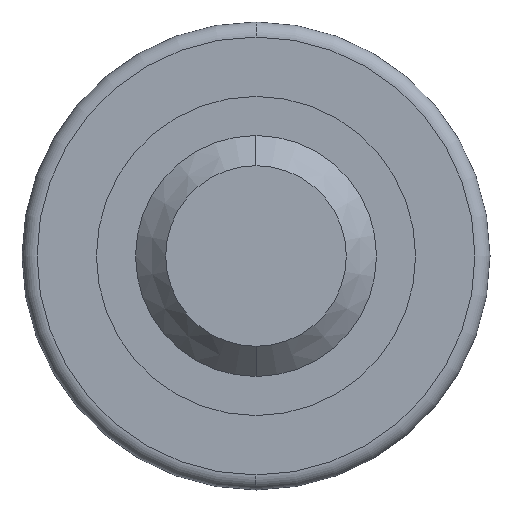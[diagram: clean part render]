
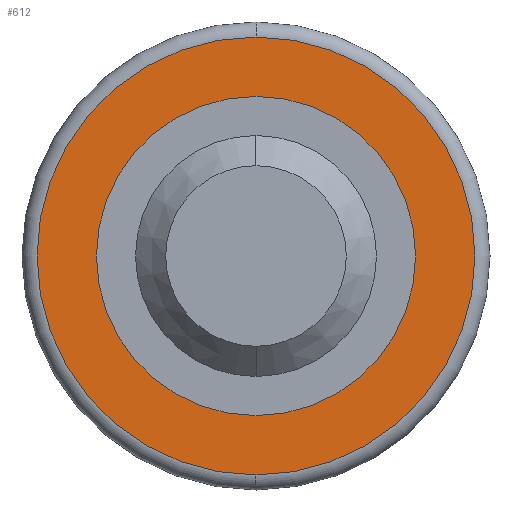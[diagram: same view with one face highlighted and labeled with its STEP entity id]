
A CAD part, left-side view. The second image highlights one B-rep face of the part: STEP entity #612.
In plain terms, the highlighted planar face has unit normal (-1, 0, 0).
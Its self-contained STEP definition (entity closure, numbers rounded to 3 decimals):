
#19 = DIRECTION ( 'NONE',  ( 0., 0., 1. ) ) ;
#45 = DIRECTION ( 'NONE',  ( 1., 0., 0. ) ) ;
#47 = AXIS2_PLACEMENT_3D ( 'NONE', #662, #349, #19 ) ;
#52 = EDGE_CURVE ( 'NONE', #122, #626, #214, .T. ) ;
#119 = DIRECTION ( 'NONE',  ( -1., 0., 0. ) ) ;
#122 = VERTEX_POINT ( 'NONE', #465 ) ;
#139 = EDGE_LOOP ( 'NONE', ( #383, #294 ) ) ;
#147 = CARTESIAN_POINT ( 'NONE',  ( 22., 0., 0. ) ) ;
#162 = CIRCLE ( 'NONE', #684, 26.5 ) ;
#198 = CARTESIAN_POINT ( 'NONE',  ( 22., 0., -26.5 ) ) ;
#202 = DIRECTION ( 'NONE',  ( 0., 0., -1. ) ) ;
#210 = AXIS2_PLACEMENT_3D ( 'NONE', #254, #119, #407 ) ;
#214 = CIRCLE ( 'NONE', #210, 36.35 ) ;
#254 = CARTESIAN_POINT ( 'NONE',  ( 22., 0., 0. ) ) ;
#264 = CARTESIAN_POINT ( 'NONE',  ( 22., 0., 26.5 ) ) ;
#270 = FACE_OUTER_BOUND ( 'NONE', #568, .T. ) ;
#271 = VERTEX_POINT ( 'NONE', #198 ) ;
#277 = EDGE_CURVE ( 'NONE', #271, #693, #162, .T. ) ;
#283 = AXIS2_PLACEMENT_3D ( 'NONE', #379, #45, #427 ) ;
#294 = ORIENTED_EDGE ( 'NONE', *, *, #351, .T. ) ;
#302 = CARTESIAN_POINT ( 'NONE',  ( 22., 0., -38.85 ) ) ;
#312 = ORIENTED_EDGE ( 'NONE', *, *, #52, .T. ) ;
#349 = DIRECTION ( 'NONE',  ( -1., 0., 0. ) ) ;
#351 = EDGE_CURVE ( 'NONE', #693, #271, #384, .T. ) ;
#360 = DIRECTION ( 'NONE',  ( 0., 0., 1. ) ) ;
#379 = CARTESIAN_POINT ( 'NONE',  ( 22., 0., 0. ) ) ;
#383 = ORIENTED_EDGE ( 'NONE', *, *, #277, .T. ) ;
#384 = CIRCLE ( 'NONE', #283, 26.5 ) ;
#407 = DIRECTION ( 'NONE',  ( 0., 0., 1. ) ) ;
#427 = DIRECTION ( 'NONE',  ( 0., 0., -1. ) ) ;
#456 = EDGE_CURVE ( 'NONE', #626, #122, #476, .T. ) ;
#465 = CARTESIAN_POINT ( 'NONE',  ( 22., 0., 36.35 ) ) ;
#476 = CIRCLE ( 'NONE', #47, 36.35 ) ;
#514 = PLANE ( 'NONE',  #545 ) ;
#516 = CARTESIAN_POINT ( 'NONE',  ( 22., 0., -36.35 ) ) ;
#521 = DIRECTION ( 'NONE',  ( 1., 0., 0. ) ) ;
#542 = FACE_BOUND ( 'NONE', #139, .T. ) ;
#545 = AXIS2_PLACEMENT_3D ( 'NONE', #302, #671, #360 ) ;
#568 = EDGE_LOOP ( 'NONE', ( #312, #592 ) ) ;
#592 = ORIENTED_EDGE ( 'NONE', *, *, #456, .T. ) ;
#612 = ADVANCED_FACE ( 'NONE', ( #270, #542 ), #514, .T. ) ;
#626 = VERTEX_POINT ( 'NONE', #516 ) ;
#662 = CARTESIAN_POINT ( 'NONE',  ( 22., 0., 0. ) ) ;
#671 = DIRECTION ( 'NONE',  ( -1., 0., 0. ) ) ;
#684 = AXIS2_PLACEMENT_3D ( 'NONE', #147, #521, #202 ) ;
#693 = VERTEX_POINT ( 'NONE', #264 ) ;
